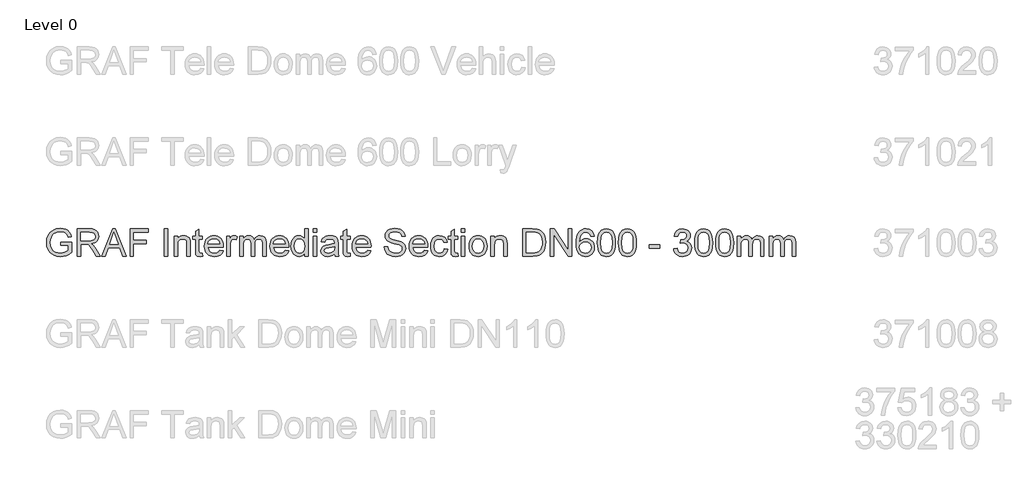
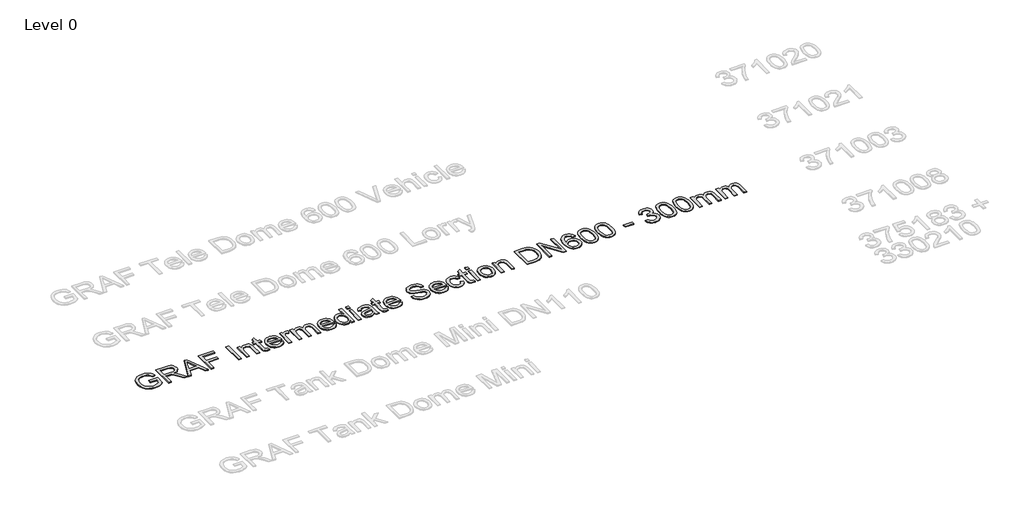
# One storey, part 6 of 20: 1 proxy.
"""IFC4 building model written with IfcOpenShell, lengths in millimetres."""

from ifc_helpers import new_model, si_unit, origin, origin_with_axes, place, context, project, spatial, polyline, outline, extrude, element, save

model = new_model("IFC4")

# Units and contexts
model_context = context("Model", 3, world=origin())
ifc_project = project(units=[si_unit("LENGTHUNIT", "METRE", prefix="MILLI")], contexts=[model_context])

# Site, building, storey
site = spatial("IfcSite", under=ifc_project)
building = spatial("IfcBuilding", under=site)
storey = spatial("IfcBuildingStorey", under=building, Name="Level 0", Elevation=0.0)

# Proxy
placement = place(None, origin())
element("IfcBuildingElementProxy", 1, Name="300mm Arial", ObjectType="300mm Arial", at=placement, inside=storey, context=model_context, shape_type="SweptSolid", body=[
    extrude(outline(polyline([(-15240.9940387, -13082.9794047), (-15240.9940387, -13045.3082884), (-15118.5629107, -13045.3082884), (-15118.5629107, -13157.9537553), (-15148.3153671, -13178.6471176), (-15179.0059225, -13193.4911561), (-15210.5610007, -13202.4306885), (-15242.9070251, -13205.4105327), (-15285.1674693, -13200.674052), (-15323.3628175, -13186.46461), (-15355.0926395, -13163.2788472), (-15377.9565055, -13131.6134045), (-15391.7796715, -13093.6295885), (-15396.3873935, -13051.4887059), (-15391.7980656, -13009.0443207), (-15378.0300819, -12969.5613856), (-15355.6536596, -12936.442809), (-15325.2390156, -12913.0914993), (-15288.1932987, -12899.2407422), (-15245.9236575, -12894.6238232), (-15214.8928112, -12897.3001647), (-15186.9889618, -12905.3291892), (-15163.4904994, -12918.1314827), (-15145.6758138, -12935.1276309), (-15132.4964413, -12957.1361712), (-15122.9039183, -12984.9756412), (-15157.6319786, -12994.7613023), (-15165.3850917, -12974.9048716), (-15174.8120678, -12959.9228773), (-15187.2832674, -12948.6289001), (-15204.169051, -12939.8365204), (-15224.3013932, -12934.1803347), (-15246.5122687, -12932.2949395), (-15272.5123287, -12934.3274875), (-15294.7415982, -12940.4251316), (-15313.1173039, -12949.8245166), (-15327.5566722, -12961.7622873), (-15346.9440533, -12990.7881767), (-15355.7732212, -13019.225455), (-15358.7162772, -13049.9436015), (-15355.175413, -13085.9684459), (-15344.5528204, -13115.6105377), (-15327.1703961, -13138.6583447), (-15303.3500369, -13154.9003348), (-15275.4737787, -13164.529646), (-15245.9236575, -13167.7394164), (-15219.831627, -13165.3205923), (-15194.3833899, -13158.0641199), (-15172.2828791, -13148.0669267), (-15156.234027, -13137.42594), (-15156.234027, -13082.9794047), (-15240.9940387, -13082.9794047)])), origin_with_axes(), (0.0, 0.0, 1.0), 10.0),
    extrude(outline(polyline([(-15057.3473467, -13200.7016432), (-15057.3473467, -12899.3327127), (-14927.4850024, -12899.3327127), (-14892.5821982, -12901.3652607), (-14867.1891434, -12907.4629048), (-14848.6294968, -12918.7200939), (-14834.2269167, -12936.2312768), (-14824.9838815, -12957.9455116), (-14821.9028698, -12981.811856), (-14827.0072325, -13011.4999331), (-14842.3203206, -13036.1112385), (-14853.9200997, -13046.1406214), (-14868.3019865, -13054.1558504), (-14905.4120827, -13064.1438466), (-14884.0013506, -13080.257078), (-14853.467145, -13119.0318402), (-14803.2144645, -13200.7016432), (-14846.9924219, -13200.7016432), (-14886.2086426, -13138.2352804), (-14914.5355562, -13096.8853441), (-14934.4379722, -13077.3508102), (-14952.3538253, -13070.1771113), (-14974.2060158, -13068.8527361), (-15019.6762304, -13068.8527361), (-15019.6762304, -13200.7016432), (-15057.3473467, -13200.7016432)]), holes=[polyline([(-15019.6762304, -13031.1816198), (-14935.3576771, -13031.1816198), (-14911.1418448, -13029.8480476), (-14892.3522719, -13025.8473309), (-14878.2072092, -13018.9127553), (-14867.9249074, -13008.7776063), (-14861.6617165, -12996.5179388), (-14859.5739861, -12983.2098076), (-14863.5563087, -12964.834102), (-14875.5032765, -12950.0268517), (-14896.058683, -12940.2595847), (-14925.8663217, -12937.003829), (-15019.6762304, -12937.003829), (-15019.6762304, -13031.1816198)])]), origin_with_axes(), (0.0, 0.0, 1.0), 10.0),
    extrude(outline(polyline([(-14791.0743586, -13200.7016432), (-14670.7769462, -12899.3327127), (-14638.6976362, -12899.3327127), (-14518.4002238, -13200.7016432), (-14558.2050557, -13200.7016432), (-14592.7123868, -13106.5238524), (-14716.835772, -13106.5238524), (-14751.2695268, -13200.7016432), (-14791.0743586, -13200.7016432)]), holes=[polyline([(-14703.003409, -13068.8527361), (-14606.4711735, -13068.8527361), (-14633.6208647, -12994.7613023), (-14654.7372912, -12937.003829), (-14673.499273, -12988.2865792), (-14703.003409, -13068.8527361)])]), origin_with_axes(), (0.0, 0.0, 1.0), 10.0),
    extrude(outline(polyline([(-14478.1539335, -13200.7016432), (-14478.1539335, -12899.3327127), (-14275.6716834, -12899.3327127), (-14275.6716834, -12937.003829), (-14440.4828172, -12937.003829), (-14440.4828172, -13026.4727303), (-14299.2161311, -13026.4727303), (-14299.2161311, -13064.1438466), (-14440.4828172, -13064.1438466), (-14440.4828172, -13200.7016432), (-14478.1539335, -13200.7016432)])), origin_with_axes(), (0.0, 0.0, 1.0), 10.0),
    extrude(outline(polyline([(-14101.4427705, -13200.7016432), (-14101.4427705, -12899.3327127), (-14063.7716542, -12899.3327127), (-14063.7716542, -13200.7016432), (-14101.4427705, -13200.7016432)])), origin_with_axes(), (0.0, 0.0, 1.0), 10.0),
    extrude(outline(polyline([(-13993.1383111, -13200.7016432), (-13993.1383111, -12979.3838349), (-13955.4671948, -12979.3838349), (-13955.4671948, -13010.2859225), (-13942.3797928, -12994.70612), (-13926.6620346, -12983.5776896), (-13908.3139201, -12976.9006314), (-13887.3354493, -12974.6749453), (-13868.7666056, -12976.4683701), (-13851.7612603, -12981.8486442), (-13837.5794094, -12990.1443832), (-13827.4810487, -13000.6842024), (-13816.1870714, -13028.3857166), (-13814.2005086, -13064.8060342), (-13814.2005086, -13200.7016432), (-13851.8716249, -13200.7016432), (-13851.8716249, -13069.8828057), (-13856.2126325, -13036.5526969), (-13862.2183061, -13026.6290801), (-13871.5533117, -13018.9311494), (-13883.5186736, -13013.9923336), (-13897.415416, -13012.3460616), (-13919.4791386, -13016.0432757), (-13938.2871056, -13027.1349178), (-13945.8033946, -13036.1894135), (-13951.1721725, -13048.5640441), (-13955.4671948, -13083.2737103), (-13955.4671948, -13200.7016432), (-13993.1383111, -13200.7016432)])), origin_with_axes(), (0.0, 0.0, 1.0), 10.0),
    extrude(outline(polyline([(-13682.3516016, -13169.2845208), (-13677.642712, -13201.8052892), (-13705.8224729, -13205.4105327), (-13723.9038729, -13203.8470342), (-13737.386748, -13199.1565388), (-13746.9148917, -13191.9276576), (-13753.1320974, -13182.7490018), (-13756.5534, -13166.9852583), (-13757.6938342, -13140.001114), (-13757.6938342, -13017.0549512), (-13785.9471714, -13017.0549512), (-13785.9471714, -12979.3838349), (-13757.6938342, -12979.3838349), (-13757.6938342, -12925.5994872), (-13720.0227179, -12903.4529911), (-13720.0227179, -12979.3838349), (-13682.3516016, -12979.3838349), (-13682.3516016, -13017.0549512), (-13720.0227179, -13017.0549512), (-13720.0227179, -13138.897468), (-13718.0361551, -13158.3216373), (-13711.5982202, -13165.2010306), (-13698.7591386, -13167.7394164), (-13682.3516016, -13169.2845208)])), origin_with_axes(), (0.0, 0.0, 1.0), 10.0),
    extrude(outline(polyline([(-13489.7285889, -13134.7771896), (-13452.7932366, -13139.4860792), (-13466.1013678, -13167.3163521), (-13487.3373559, -13188.1200789), (-13516.0229545, -13201.0879193), (-13551.6799169, -13205.4105327), (-13575.0542192, -13203.5458308), (-13595.8809386, -13197.9517253), (-13614.1600752, -13188.6282159), (-13629.8916291, -13175.5753029), (-13642.5421712, -13159.1562696), (-13651.5782727, -13139.7343995), (-13656.9999336, -13117.3096927), (-13658.8071539, -13091.882149), (-13656.9815395, -13065.5923819), (-13651.5046963, -13042.4204147), (-13642.3766243, -13022.3662475), (-13629.5973235, -13005.4298801), (-13613.9071564, -12991.9745962), (-13596.0464855, -12982.363679), (-13576.0153109, -12976.5971288), (-13553.8136325, -12974.6749453), (-13532.3270247, -12976.5925302), (-13512.8959575, -12982.3452849), (-13495.5204311, -12991.9332094), (-13480.2004452, -13005.3563037), (-13467.6947566, -13022.2558829), (-13458.762122, -13042.2732619), (-13453.4025411, -13065.4084409), (-13451.6160142, -13091.6614198), (-13451.8367434, -13101.8149629), (-13621.1360376, -13101.8149629), (-13614.6153292, -13130.0131178), (-13599.4677881, -13150.7432682), (-13577.6064005, -13163.4903794), (-13550.9441529, -13167.7394164), (-13530.8945842, -13165.7712477), (-13514.0088006, -13159.8667417), (-13500.2868022, -13149.6580163), (-13489.7285889, -13134.7771896)]), holes=[polyline([(-13621.1360376, -13064.1438466), (-13489.2871305, -13064.1438466), (-13494.3822961, -13044.2414306), (-13504.3702923, -13030.0043974), (-13526.3328474, -13016.7606456), (-13553.9607853, -13012.3460616), (-13579.35384, -13015.8685317), (-13600.3507048, -13026.4359421), (-13614.946423, -13042.9078584), (-13621.1360376, -13064.1438466)])]), origin_with_axes(), (0.0, 0.0, 1.0), 10.0),
    extrude(outline(polyline([(-13413.9448979, -13200.7016432), (-13413.9448979, -12979.3838349), (-13380.9826711, -12979.3838349), (-13380.9826711, -13012.1253324), (-13368.8057771, -12993.1426215), (-13357.5853762, -12981.9590088), (-13346.3281872, -12976.4959612), (-13334.0409285, -12974.6749453), (-13315.2789468, -12977.5812131), (-13296.2226594, -12986.3000164), (-13308.8042237, -13020.0715835), (-13322.0479755, -13014.2774421), (-13335.2917273, -13012.3460616), (-13346.5397193, -13014.2038657), (-13356.5920948, -13019.7772779), (-13364.7130899, -13028.643234), (-13370.1669405, -13040.3786697), (-13374.7470713, -13061.4215198), (-13376.2737816, -13084.3773563), (-13376.2737816, -13200.7016432), (-13413.9448979, -13200.7016432)])), origin_with_axes(), (0.0, 0.0, 1.0), 10.0),
    extrude(outline(polyline([(-13272.6782117, -13200.7016432), (-13272.6782117, -12979.3838349), (-13235.0070954, -12979.3838349), (-13235.0070954, -13015.8041524), (-13223.67633, -12999.0747187), (-13209.108203, -12985.9689226), (-13191.7993551, -12977.4984396), (-13172.2464271, -12974.6749453), (-13151.2955474, -12977.5536219), (-13134.5017344, -12986.1896518), (-13121.9569583, -13000.0128178), (-13113.7531898, -13018.4529028), (-13100.0219944, -12999.3000464), (-13084.3594184, -12985.6194347), (-13066.765462, -12977.4110677), (-13047.2401251, -12974.6749453), (-13018.9224085, -12979.227485), (-12997.9807259, -12992.8851041), (-12985.0404768, -13016.0156845), (-12980.7270604, -13048.9871084), (-12980.7270604, -13200.7016432), (-13018.3981767, -13200.7016432), (-13018.3981767, -13065.1739161), (-13021.8930556, -13033.7200056), (-13026.8042803, -13025.0471875), (-13034.5481963, -13018.2321736), (-13044.5086013, -13013.8175896), (-13056.069293, -13012.3460616), (-13076.4775467, -13016.1168521), (-13093.1150099, -13027.4292234), (-13104.1790609, -13047.0557279), (-13107.8670779, -13075.7689176), (-13107.8670779, -13200.7016432), (-13145.5381942, -13200.7016432), (-13145.5381942, -13060.9800614), (-13147.717895, -13039.6796939), (-13154.2569975, -13024.4861675), (-13165.7625069, -13015.3810881), (-13182.8414285, -13012.3460616), (-13197.3543732, -13014.3694126), (-13210.7268838, -13020.4394655), (-13221.7633436, -13030.4090676), (-13229.2681363, -13044.131066), (-13233.5723557, -13063.1689593), (-13235.0070954, -13089.0862458), (-13235.0070954, -13200.7016432), (-13272.6782117, -13200.7016432)])), origin_with_axes(), (0.0, 0.0, 1.0), 10.0),
    extrude(outline(polyline([(-12769.2684895, -13134.7771896), (-12732.3331372, -13139.4860792), (-12745.6412684, -13167.3163521), (-12766.8772566, -13188.1200789), (-12795.5628551, -13201.0879193), (-12831.2198175, -13205.4105327), (-12854.5941198, -13203.5458308), (-12875.4208393, -13197.9517253), (-12893.6999759, -13188.6282159), (-12909.4315297, -13175.5753029), (-12922.0820718, -13159.1562696), (-12931.1181733, -13139.7343995), (-12936.5398342, -13117.3096927), (-12938.3470545, -13091.882149), (-12936.5214401, -13065.5923819), (-12931.0445969, -13042.4204147), (-12921.9165249, -13022.3662475), (-12909.1372241, -13005.4298801), (-12893.447057, -12991.9745962), (-12875.5863861, -12982.363679), (-12855.5552115, -12976.5971288), (-12833.3535331, -12974.6749453), (-12811.8669253, -12976.5925302), (-12792.4358582, -12982.3452849), (-12775.0603317, -12991.9332094), (-12759.7403459, -13005.3563037), (-12747.2346573, -13022.2558829), (-12738.3020226, -13042.2732619), (-12732.9424418, -13065.4084409), (-12731.1559148, -13091.6614198), (-12731.376644, -13101.8149629), (-12900.6759382, -13101.8149629), (-12894.1552299, -13130.0131178), (-12879.0076887, -13150.7432682), (-12857.1463011, -13163.4903794), (-12830.4840535, -13167.7394164), (-12810.4344848, -13165.7712477), (-12793.5487012, -13159.8667417), (-12779.8267028, -13149.6580163), (-12769.2684895, -13134.7771896)]), holes=[polyline([(-12900.6759382, -13064.1438466), (-12768.8270311, -13064.1438466), (-12773.9221968, -13044.2414306), (-12783.910193, -13030.0043974), (-12805.8727481, -13016.7606456), (-12833.5006859, -13012.3460616), (-12858.8937406, -13015.8685317), (-12879.8906055, -13026.4359421), (-12894.4863237, -13042.9078584), (-12900.6759382, -13064.1438466)])]), origin_with_axes(), (0.0, 0.0, 1.0), 10.0),
    extrude(outline(polyline([(-12556.9270019, -13200.7016432), (-12556.9270019, -13165.1642424), (-12568.1979866, -13182.7719944), (-12581.8510071, -13195.3489601), (-12597.8860636, -13202.8951396), (-12616.3031559, -13205.4105327), (-12640.656944, -13201.768501), (-12662.9505929, -13190.8424057), (-12681.8229393, -13173.3956021), (-12695.9128197, -13150.1914452), (-12704.6868053, -13122.1680343), (-12707.6114672, -13090.2634682), (-12704.9167315, -13058.7543753), (-12696.8325247, -13030.298703), (-12683.3680437, -13006.515132), (-12664.5324855, -12989.0223431), (-12641.751393, -12978.2617948), (-12616.4503087, -12974.6749453), (-12598.0194208, -12977.2409223), (-12581.7222484, -12984.938853), (-12567.9082795, -12996.738668), (-12556.9270019, -13011.6102977), (-12556.9270019, -12899.3327127), (-12519.2558856, -12899.3327127), (-12519.2558856, -13200.7016432), (-12556.9270019, -13200.7016432)]), holes=[polyline([(-12669.9403508, -13090.1163154), (-12665.6913138, -13124.1913852), (-12652.9442027, -13148.4256117), (-12634.4213442, -13162.9109652), (-12612.8450652, -13167.7394164), (-12591.2779832, -13163.1316944), (-12573.2241743, -13149.3085284), (-12561.001295, -13126.0124011), (-12556.9270019, -13092.985795), (-12561.0748714, -13056.8781772), (-12573.5184799, -13031.8438074), (-12592.0321413, -13017.2204981), (-12614.3901696, -13012.3460616), (-12636.1871778, -13017.02736), (-12654.0478487, -13031.0712552), (-12665.9672253, -13055.195117), (-12669.9403508, -13090.1163154)])]), origin_with_axes(), (0.0, 0.0, 1.0), 10.0),
    extrude(outline(polyline([(-12462.7492112, -12937.003829), (-12462.7492112, -12899.3327127), (-12425.0780949, -12899.3327127), (-12425.0780949, -12937.003829), (-12462.7492112, -12937.003829)])), origin_with_axes(), (0.0, 0.0, 1.0), 10.0),
    extrude(outline(polyline([(-12462.7492112, -13200.7016432), (-12462.7492112, -12979.3838349), (-12425.0780949, -12979.3838349), (-12425.0780949, -13200.7016432), (-12462.7492112, -13200.7016432)])), origin_with_axes(), (0.0, 0.0, 1.0), 10.0),
    extrude(outline(polyline([(-12227.3047342, -13172.4483059), (-12245.3033609, -13187.8809556), (-12263.8354164, -13197.9793164), (-12283.3239651, -13203.5527286), (-12304.1920712, -13205.4105327), (-12335.673573, -13200.9407665), (-12358.8961239, -13187.5314677), (-12373.2159306, -13167.1691993), (-12377.9891995, -13141.8405239), (-12376.1865777, -13126.2239332), (-12370.7787124, -13112.0420823), (-12362.4369881, -13099.9019765), (-12351.8327896, -13090.410621), (-12325.4556506, -13078.049786), (-12292.8613058, -13072.3844033), (-12254.3440609, -13066.4247149), (-12227.5254634, -13059.434957), (-12227.3047342, -13051.0472475), (-12229.8983023, -13034.2350404), (-12237.6790065, -13023.2353687), (-12255.0798249, -13015.0683884), (-12279.3232484, -13012.3460616), (-12301.7640501, -13014.1578805), (-12317.4358231, -13019.5933369), (-12328.122795, -13029.6457125), (-12335.6091936, -13045.3082884), (-12373.2803099, -13040.5993989), (-12366.7412075, -13019.9980071), (-12356.9831375, -13003.8111994), (-12343.0955922, -12991.4319702), (-12324.1680636, -12982.2533144), (-12301.019089, -12976.5695376), (-12274.467206, -12974.6749453), (-12249.0005749, -12976.3488084), (-12228.8130504, -12981.3703976), (-12213.5919329, -12988.9211756), (-12203.0245226, -12998.1826048), (-12196.0163706, -13009.6329319), (-12191.4730279, -13023.7504035), (-12189.6336179, -13056.7126303), (-12189.6336179, -13103.5807964), (-12187.7206316, -13169.0270034), (-12180.2158389, -13200.7016432), (-12217.8869552, -13200.7016432), (-12227.3047342, -13172.4483059)]), holes=[polyline([(-12227.3047342, -13097.1060733), (-12288.0788399, -13108.657568), (-12320.4892436, -13114.7644091), (-12335.1677352, -13124.697223), (-12340.3180832, -13139.1917736), (-12337.512983, -13150.3937803), (-12329.0976823, -13159.5724361), (-12315.2561222, -13165.6976713), (-12296.1722437, -13167.7394164), (-12275.938734, -13165.4861392), (-12258.059669, -13158.7263075), (-12243.5651184, -13148.7659025), (-12233.4851518, -13136.9109052), (-12229.0153855, -13124.697223), (-12227.5254634, -13107.7746512), (-12227.3047342, -13097.1060733)])]), origin_with_axes(), (0.0, 0.0, 1.0), 10.0),
    extrude(outline(polyline([(-12057.7847109, -13169.2845208), (-12053.0758213, -13201.8052892), (-12081.2555822, -13205.4105327), (-12099.3369822, -13203.8470342), (-12112.8198573, -13199.1565388), (-12122.348001, -13191.9276576), (-12128.5652067, -13182.7490018), (-12131.9865093, -13166.9852583), (-12133.1269435, -13140.001114), (-12133.1269435, -13017.0549512), (-12161.3802807, -13017.0549512), (-12161.3802807, -12979.3838349), (-12133.1269435, -12979.3838349), (-12133.1269435, -12925.5994872), (-12095.4558272, -12903.4529911), (-12095.4558272, -12979.3838349), (-12057.7847109, -12979.3838349), (-12057.7847109, -13017.0549512), (-12095.4558272, -13017.0549512), (-12095.4558272, -13138.897468), (-12093.4692644, -13158.3216373), (-12087.0313295, -13165.2010306), (-12074.1922479, -13167.7394164), (-12057.7847109, -13169.2845208)])), origin_with_axes(), (0.0, 0.0, 1.0), 10.0),
    extrude(outline(polyline([(-11865.1616982, -13134.7771896), (-11828.2263459, -13139.4860792), (-11841.5344771, -13167.3163521), (-11862.7704652, -13188.1200789), (-11891.4560638, -13201.0879193), (-11927.1130262, -13205.4105327), (-11950.4873285, -13203.5458308), (-11971.3140479, -13197.9517253), (-11989.5931845, -13188.6282159), (-12005.3247384, -13175.5753029), (-12017.9752805, -13159.1562696), (-12027.011382, -13139.7343995), (-12032.4330429, -13117.3096927), (-12034.2402632, -13091.882149), (-12032.4146488, -13065.5923819), (-12026.9378056, -13042.4204147), (-12017.8097336, -13022.3662475), (-12005.0304328, -13005.4298801), (-11989.3402657, -12991.9745962), (-11971.4795948, -12982.363679), (-11951.4484202, -12976.5971288), (-11929.2467418, -12974.6749453), (-11907.760134, -12976.5925302), (-11888.3290668, -12982.3452849), (-11870.9535404, -12991.9332094), (-11855.6335545, -13005.3563037), (-11843.1278659, -13022.2558829), (-11834.1952313, -13042.2732619), (-11828.8356504, -13065.4084409), (-11827.0491235, -13091.6614198), (-11827.2698527, -13101.8149629), (-11996.5691469, -13101.8149629), (-11990.0484385, -13130.0131178), (-11974.9008974, -13150.7432682), (-11953.0395098, -13163.4903794), (-11926.3772622, -13167.7394164), (-11906.3276935, -13165.7712477), (-11889.4419099, -13159.8667417), (-11875.7199115, -13149.6580163), (-11865.1616982, -13134.7771896)]), holes=[polyline([(-11996.5691469, -13064.1438466), (-11864.7202398, -13064.1438466), (-11869.8154054, -13044.2414306), (-11879.8034016, -13030.0043974), (-11901.7659567, -13016.7606456), (-11929.3938946, -13012.3460616), (-11954.7869493, -13015.8685317), (-11975.7838141, -13026.4359421), (-11990.3795323, -13042.9078584), (-11996.5691469, -13064.1438466)])]), origin_with_axes(), (0.0, 0.0, 1.0), 10.0),
    extrude(outline(polyline([(-11681.0735478, -13097.1060733), (-11643.4024315, -13097.1060733), (-11639.0798181, -13118.0109677), (-11631.2623257, -13134.8139778), (-11619.0670375, -13148.1497002), (-11601.6110369, -13158.6527311), (-11580.2738811, -13165.4677451), (-11556.4351278, -13167.7394164), (-11535.44746, -13166.0195681), (-11517.0717544, -13160.8600231), (-11502.1817306, -13152.6930428), (-11491.6511085, -13141.9508885), (-11485.3879175, -13129.6176447), (-11483.3001872, -13116.6773955), (-11484.8636857, -13104.0682401), (-11489.5541811, -13093.169736), (-11499.0823248, -13083.8715186), (-11515.158768, -13076.0632232), (-11570.0099735, -13061.6790372), (-11606.0164237, -13052.1600906), (-11629.0550337, -13043.1009964), (-11647.8078184, -13030.4274617), (-11661.0975555, -13015.0683884), (-11669.0162154, -12997.3548703), (-11671.6557687, -12977.6180013), (-11668.390816, -12955.5542786), (-11658.5959579, -12934.9804781), (-11642.5287118, -12917.5428715), (-11620.446595, -12904.8877309), (-11593.9406973, -12897.1898001), (-11564.6021081, -12894.6238232), (-11532.8171038, -12897.3093618), (-11505.0052249, -12905.3659774), (-11482.159753, -12918.6281234), (-11465.2739694, -12936.9302526), (-11454.5869975, -12959.131931), (-11450.3379604, -12984.0927244), (-11488.0090767, -12984.0927244), (-11494.9252582, -12961.6151345), (-11509.3462325, -12945.3915385), (-11531.8790047, -12935.5690892), (-11563.1305802, -12932.2949395), (-11595.1179196, -12935.532301), (-11617.0620806, -12945.2443857), (-11629.7540095, -12959.5366012), (-11633.9846524, -12976.5143553), (-11630.9864142, -12990.9905118), (-11621.9916994, -13002.633977), (-11600.7281201, -13013.0450374), (-11560.4818298, -13023.6768271), (-11518.9479525, -13033.7751879), (-11493.8216123, -13042.5859616), (-11472.3465008, -13056.2527778), (-11457.3645065, -13073.1201672), (-11448.5629298, -13093.0041891), (-11445.6290709, -13115.7209023), (-11449.0043882, -13138.9434532), (-11459.1303401, -13160.7864467), (-11475.5930594, -13179.5852166), (-11497.9786788, -13193.6750971), (-11524.8984438, -13202.4766738), (-11554.9635999, -13205.4105327), (-11591.871361, -13202.2467476), (-11622.2492168, -13192.7553921), (-11646.446655, -13176.8996781), (-11664.8131636, -13154.6428174), (-11676.6037816, -13127.5299143), (-11681.0735478, -13097.1060733)])), origin_with_axes(), (0.0, 0.0, 1.0), 10.0),
    extrude(outline(polyline([(-11238.8793896, -13134.7771896), (-11201.9440373, -13139.4860792), (-11215.2521685, -13167.3163521), (-11236.4881566, -13188.1200789), (-11265.1737552, -13201.0879193), (-11300.8307176, -13205.4105327), (-11324.2050199, -13203.5458308), (-11345.0317393, -13197.9517253), (-11363.310876, -13188.6282159), (-11379.0424298, -13175.5753029), (-11391.6929719, -13159.1562696), (-11400.7290734, -13139.7343995), (-11406.1507343, -13117.3096927), (-11407.9579546, -13091.882149), (-11406.1323402, -13065.5923819), (-11400.655497, -13042.4204147), (-11391.527425, -13022.3662475), (-11378.7481242, -13005.4298801), (-11363.0579571, -12991.9745962), (-11345.1972862, -12982.363679), (-11325.1661116, -12976.5971288), (-11302.9644332, -12974.6749453), (-11281.4778254, -12976.5925302), (-11262.0467583, -12982.3452849), (-11244.6712318, -12991.9332094), (-11229.3512459, -13005.3563037), (-11216.8455574, -13022.2558829), (-11207.9129227, -13042.2732619), (-11202.5533418, -13065.4084409), (-11200.7668149, -13091.6614198), (-11200.9875441, -13101.8149629), (-11370.2868383, -13101.8149629), (-11363.7661299, -13130.0131178), (-11348.6185888, -13150.7432682), (-11326.7572012, -13163.4903794), (-11300.0949536, -13167.7394164), (-11280.0453849, -13165.7712477), (-11263.1596013, -13159.8667417), (-11249.4376029, -13149.6580163), (-11238.8793896, -13134.7771896)]), holes=[polyline([(-11370.2868383, -13064.1438466), (-11238.4379312, -13064.1438466), (-11243.5330968, -13044.2414306), (-11253.521093, -13030.0043974), (-11275.4836481, -13016.7606456), (-11303.111586, -13012.3460616), (-11328.5046407, -13015.8685317), (-11349.5015056, -13026.4359421), (-11364.0972237, -13042.9078584), (-11370.2868383, -13064.1438466)])]), origin_with_axes(), (0.0, 0.0, 1.0), 10.0),
    extrude(outline(polyline([(-11021.8290125, -13120.650521), (-10984.1578961, -13125.3594106), (-10994.6609271, -13158.8642633), (-11014.3977961, -13184.1837416), (-11041.5106992, -13200.1038349), (-11074.1418322, -13205.4105327), (-11095.269755, -13203.5596264), (-11114.2133785, -13198.0069076), (-11130.9727026, -13188.7523761), (-11145.5477274, -13175.7960321), (-11157.3452432, -13159.3815973), (-11165.7720401, -13139.7527936), (-11170.8281183, -13116.909621), (-11172.5134777, -13090.8520794), (-11169.6348011, -13057.3288326), (-11160.9987712, -13028.275352), (-11146.4674324, -13004.8136778), (-11125.9028289, -12988.06585), (-11101.3007205, -12978.0226715), (-11074.656867, -12974.6749453), (-11042.8258773, -12979.2734703), (-11017.3776403, -12993.0690451), (-10999.1214963, -13015.3259058), (-10988.8667857, -13045.3082884), (-11026.537902, -13050.0171779), (-11033.3713101, -13033.5820498), (-11044.0122968, -13021.8006289), (-11057.8722509, -13014.7097035), (-11074.3625614, -13012.3460616), (-11098.7071524, -13016.9997689), (-11118.0301542, -13030.9608906), (-11130.6393096, -13054.9835849), (-11134.8423614, -13089.8220098), (-11130.7312801, -13125.1294843), (-11118.3980362, -13149.234952), (-11099.4245223, -13163.1133003), (-11075.392631, -13167.7394164), (-11055.8856882, -13164.8515427), (-11039.8920184, -13156.1879218), (-11028.2577503, -13141.5278242), (-11021.8290125, -13120.650521)])), origin_with_axes(), (0.0, 0.0, 1.0), 10.0),
    extrude(outline(polyline([(-10871.1445472, -13169.2845208), (-10866.4356577, -13201.8052892), (-10894.6154185, -13205.4105327), (-10912.6968186, -13203.8470342), (-10926.1796937, -13199.1565388), (-10935.7078374, -13191.9276576), (-10941.9250431, -13182.7490018), (-10945.3463457, -13166.9852583), (-10946.4867798, -13140.001114), (-10946.4867798, -13017.0549512), (-10974.7401171, -13017.0549512), (-10974.7401171, -12979.3838349), (-10946.4867798, -12979.3838349), (-10946.4867798, -12925.5994872), (-10908.8156635, -12903.4529911), (-10908.8156635, -12979.3838349), (-10871.1445472, -12979.3838349), (-10871.1445472, -13017.0549512), (-10908.8156635, -13017.0549512), (-10908.8156635, -13138.897468), (-10906.8291008, -13158.3216373), (-10900.3911658, -13165.2010306), (-10887.5520842, -13167.7394164), (-10871.1445472, -13169.2845208)])), origin_with_axes(), (0.0, 0.0, 1.0), 10.0),
    extrude(outline(polyline([(-10833.4734309, -12937.003829), (-10833.4734309, -12899.3327127), (-10795.8023146, -12899.3327127), (-10795.8023146, -12937.003829), (-10833.4734309, -12937.003829)])), origin_with_axes(), (0.0, 0.0, 1.0), 10.0),
    extrude(outline(polyline([(-10833.4734309, -13200.7016432), (-10833.4734309, -12979.3838349), (-10795.8023146, -12979.3838349), (-10795.8023146, -13200.7016432), (-10833.4734309, -13200.7016432)])), origin_with_axes(), (0.0, 0.0, 1.0), 10.0),
    extrude(outline(polyline([(-10748.7134192, -13090.042739), (-10746.6762727, -13061.3801331), (-10740.564833, -13036.6814556), (-10730.3791003, -13015.9467067), (-10716.1190745, -12999.1758862), (-10701.7624796, -12988.4567246), (-10685.9159627, -12980.8001806), (-10668.5795236, -12976.2062541), (-10649.7531625, -12974.6749453), (-10628.9701291, -12976.5396472), (-10610.1782569, -12982.1337528), (-10593.377546, -12991.4572621), (-10578.5679965, -13004.5101751), (-10566.4807737, -13020.8510335), (-10557.8470431, -13040.0383788), (-10552.6668047, -13062.0722111), (-10550.9400586, -13086.9525303), (-10553.9934792, -13125.0099227), (-10563.1537409, -13153.9806298), (-10578.1541292, -13175.6764705), (-10598.7279298, -13191.9092635), (-10623.1644913, -13202.0352154), (-10649.7531625, -13205.4105327), (-10670.8396986, -13203.5527286), (-10689.8063148, -13197.9793164), (-10706.6530109, -13188.690296), (-10721.379787, -13175.6856675), (-10733.3382511, -13159.18616), (-10741.8800112, -13139.4125028), (-10747.0050672, -13116.3646958), (-10748.7134192, -13090.042739)]), holes=[polyline([(-10711.0423029, -13089.9691626), (-10706.6829013, -13124.0626265), (-10693.6046964, -13148.3520353), (-10673.9230096, -13162.8925711), (-10649.7531625, -13167.7394164), (-10625.69368, -13162.86498), (-10606.0487815, -13148.2416707), (-10592.9705766, -13123.6303652), (-10588.6111749, -13088.7919402), (-10592.9981677, -13055.6917577), (-10606.1591461, -13031.7334428), (-10625.8316358, -13017.1929069), (-10649.7531625, -13012.3460616), (-10673.9230096, -13017.1745128), (-10693.6046964, -13031.6598664), (-10706.6829013, -13055.8940928), (-10711.0423029, -13089.9691626)])]), origin_with_axes(), (0.0, 0.0, 1.0), 10.0),
    extrude(outline(polyline([(-10508.5600528, -13200.7016432), (-10508.5600528, -12979.3838349), (-10470.8889365, -12979.3838349), (-10470.8889365, -13010.2859225), (-10457.8015345, -12994.70612), (-10442.0837763, -12983.5776896), (-10423.7356617, -12976.9006314), (-10402.757191, -12974.6749453), (-10384.1883473, -12976.4683701), (-10367.183002, -12981.8486442), (-10353.0011511, -12990.1443832), (-10342.9027904, -13000.6842024), (-10331.6088131, -13028.3857166), (-10329.6222503, -13064.8060342), (-10329.6222503, -13200.7016432), (-10367.2933666, -13200.7016432), (-10367.2933666, -13069.8828057), (-10371.6343742, -13036.5526969), (-10377.6400477, -13026.6290801), (-10386.9750534, -13018.9311494), (-10398.9404153, -13013.9923336), (-10412.8371576, -13012.3460616), (-10434.9008803, -13016.0432757), (-10453.7088473, -13027.1349178), (-10461.2251363, -13036.1894135), (-10466.5939142, -13048.5640441), (-10470.8889365, -13083.2737103), (-10470.8889365, -13200.7016432), (-10508.5600528, -13200.7016432)])), origin_with_axes(), (0.0, 0.0, 1.0), 10.0),
    extrude(outline(polyline([(-10155.3933374, -13200.7016432), (-10155.3933374, -12899.3327127), (-10051.4298856, -12899.3327127), (-9997.6455379, -12903.6737203), (-9973.6228436, -12912.0430357), (-9953.3525457, -12925.2316052), (-9932.5120306, -12948.1874417), (-9917.6679921, -12976.7350845), (-9908.7836419, -13010.3227107), (-9905.8221919, -13048.3984972), (-9907.8271488, -13080.7445216), (-9913.8420194, -13109.209391), (-9923.0022811, -13133.4436174), (-9934.4434111, -13153.097713), (-9947.6135865, -13168.6131361), (-9961.9609843, -13180.4313452), (-9978.4329007, -13189.1961338), (-9997.9766317, -13195.5512952), (-10046.4266904, -13200.7016432), (-10155.3933374, -13200.7016432)]), holes=[polyline([(-10117.7222211, -13163.0305269), (-10051.0620036, -13163.0305269), (-10023.489248, -13161.6693635), (-10002.5751566, -13157.5858733), (-9986.793019, -13151.0191797), (-9974.616125, -13142.2084059), (-9961.528723, -13125.9020365), (-9951.6970767, -13104.794807), (-9945.5442503, -13078.794747), (-9943.4933082, -13047.809886), (-9947.512419, -13006.7542553), (-9959.5697514, -12976.4407789), (-9977.384437, -12955.618658), (-9998.6756075, -12943.0370938), (-10020.343857, -12938.5121452), (-10052.0920732, -12937.003829), (-10117.7222211, -12937.003829), (-10117.7222211, -13163.0305269)])]), origin_with_axes(), (0.0, 0.0, 1.0), 10.0),
    extrude(outline(polyline([(-9854.024407, -13200.7016432), (-9854.024407, -12899.3327127), (-9813.7045403, -12899.3327127), (-9656.2510464, -13138.0881276), (-9656.2510464, -12899.3327127), (-9618.57993, -12899.3327127), (-9618.57993, -13200.7016432), (-9658.8997967, -13200.7016432), (-9816.3532907, -12961.8726519), (-9816.3532907, -13200.7016432), (-9854.024407, -13200.7016432)])), origin_with_axes(), (0.0, 0.0, 1.0), 10.0),
    extrude(outline(polyline([(-9373.7176741, -12979.3838349), (-9411.3887904, -12984.0927244), (-9417.4588433, -12965.4227132), (-9425.6626118, -12952.675602), (-9442.7507305, -12940.9217723), (-9463.4073045, -12937.003829), (-9480.9184875, -12939.2846974), (-9497.3996008, -12946.1273025), (-9511.5538606, -12960.5390797), (-9523.1145523, -12980.3771163), (-9530.9228476, -13008.4373154), (-9533.8199184, -13047.5155804), (-9518.7091654, -13029.8848358), (-9500.6001742, -13017.4596214), (-9480.5046202, -13010.0927844), (-9459.4341789, -13007.6371721), (-9441.3343848, -13009.3156337), (-9424.6325422, -13014.3510185), (-9409.3286512, -13022.7433265), (-9395.4227118, -13034.4925578), (-9383.8666186, -13048.8997364), (-9375.6122663, -13065.2658866), (-9370.659655, -13083.5910085), (-9369.0087845, -13103.875102), (-9372.1173874, -13130.8500493), (-9381.443196, -13155.856828), (-9396.2136581, -13177.065225), (-9415.6562215, -13192.6450275), (-9438.8879695, -13202.2191564), (-9465.0259853, -13205.4105327), (-9487.4828818, -13203.2952112), (-9507.7646761, -13196.9492468), (-9525.871368, -13186.3726395), (-9541.8029577, -13171.5653892), (-9554.7914913, -13151.9020965), (-9564.0690154, -13126.7573621), (-9569.6355299, -13096.131186), (-9571.4910347, -13060.0235682), (-9569.4308955, -13019.5427532), (-9563.250478, -12984.9940353), (-9552.9497821, -12956.3774146), (-9538.5288079, -12933.6928911), (-9522.8984216, -12918.660313), (-9504.7756348, -12907.9227573), (-9484.1604475, -12901.4802239), (-9461.0528597, -12899.3327127), (-9427.9986624, -12904.6486076), (-9401.5295529, -12920.596292), (-9382.9883003, -12945.9249674), (-9373.7176741, -12979.3838349)]), holes=[polyline([(-9533.8199184, -13103.2864908), (-9531.6402175, -13119.9791364), (-9525.1011151, -13135.9176238), (-9514.947572, -13149.6212281), (-9501.9245494, -13159.6092243), (-9486.2067911, -13165.7068684), (-9467.9690412, -13167.7394164), (-9443.1094154, -13163.5271676), (-9423.5656844, -13150.890421), (-9410.9013467, -13131.0247933), (-9406.6799008, -13105.1259008), (-9410.8461644, -13080.266275), (-9423.3449552, -13061.3111552), (-9443.21978, -13049.3090051), (-9469.5141456, -13045.3082884), (-9494.3369832, -13049.3090051), (-9515.0947248, -13061.3111552), (-9529.13862, -13079.8064225), (-9533.8199184, -13103.2864908)])]), origin_with_axes(), (0.0, 0.0, 1.0), 10.0),
    extrude(outline(polyline([(-9336.0465578, -13052.4451991), (-9333.2782457, -13004.2066725), (-9324.9733097, -12965.7354129), (-9311.2145231, -12936.442809), (-9292.0846593, -12915.7402497), (-9267.4457627, -12903.434597), (-9237.1598775, -12899.3327127), (-9213.9465236, -12901.7607339), (-9193.1611908, -12909.0447974), (-9175.7787666, -12920.8997947), (-9162.774138, -12937.0406172), (-9152.9516888, -12957.3293093), (-9145.1158023, -12981.627915), (-9139.9838484, -13012.4840174), (-9138.2731971, -13052.4451991), (-9141.013918, -13100.4078142), (-9149.2360806, -13138.7871034), (-9162.9120938, -13168.1072984), (-9182.0143664, -13188.8926311), (-9206.7084453, -13201.2810573), (-9237.1598775, -13205.4105327), (-9257.908422, -13203.617108), (-9276.3025217, -13198.2368338), (-9292.3421767, -13189.2697102), (-9306.0273869, -13176.7157371), (-9319.1607742, -13154.0220165), (-9328.5417651, -13125.7456867), (-9334.1703596, -13091.8867475), (-9336.0465578, -13052.4451991)]), holes=[polyline([(-9298.3754414, -13052.3716227), (-9293.9608575, -13111.6282151), (-9288.4426276, -13131.8962138), (-9280.7171057, -13145.9240141), (-9260.9986307, -13162.2855658), (-9237.1598775, -13167.7394164), (-9213.3211242, -13162.2671717), (-9193.6026492, -13145.8504377), (-9185.8771273, -13131.7996447), (-9180.3588974, -13111.5362446), (-9175.9443135, -13052.3716227), (-9180.2117446, -12994.4486026), (-9185.5460335, -12974.2472825), (-9193.014038, -12959.8860891), (-9212.6957248, -12942.7243941), (-9237.6013358, -12937.003829), (-9261.1825717, -12942.0438124), (-9280.1284945, -12957.1637624), (-9288.1115338, -12972.7987472), (-9293.8137047, -12993.8783855), (-9298.3754414, -13052.3716227)])]), origin_with_axes(), (0.0, 0.0, 1.0), 10.0),
    extrude(outline(polyline([(-9105.3109704, -13052.4451991), (-9102.5426584, -13004.2066725), (-9094.2377223, -12965.7354129), (-9080.4789357, -12936.442809), (-9061.349072, -12915.7402497), (-9036.7101753, -12903.434597), (-9006.4242901, -12899.3327127), (-8983.2109362, -12901.7607339), (-8962.4256035, -12909.0447974), (-8945.0431792, -12920.8997947), (-8932.0385507, -12937.0406172), (-8922.2161014, -12957.3293093), (-8914.3802149, -12981.627915), (-8909.248261, -13012.4840174), (-8907.5376098, -13052.4451991), (-8910.2783306, -13100.4078142), (-8918.5004932, -13138.7871034), (-8932.1765064, -13168.1072984), (-8951.278779, -13188.8926311), (-8975.9728579, -13201.2810573), (-9006.4242901, -13205.4105327), (-9027.1728346, -13203.617108), (-9045.5669344, -13198.2368338), (-9061.6065894, -13189.2697102), (-9075.2917996, -13176.7157371), (-9088.4251868, -13154.0220165), (-9097.8061777, -13125.7456867), (-9103.4347722, -13091.8867475), (-9105.3109704, -13052.4451991)]), holes=[polyline([(-9067.6398541, -13052.3716227), (-9063.2252701, -13111.6282151), (-9057.7070402, -13131.8962138), (-9049.9815183, -13145.9240141), (-9030.2630434, -13162.2855658), (-9006.4242901, -13167.7394164), (-8982.5855368, -13162.2671717), (-8962.8670618, -13145.8504377), (-8955.1415399, -13131.7996447), (-8949.62331, -13111.5362446), (-8945.2087261, -13052.3716227), (-8949.4761572, -12994.4486026), (-8954.8104462, -12974.2472825), (-8962.2784507, -12959.8860891), (-8981.9601374, -12942.7243941), (-9006.8657485, -12937.003829), (-9030.4469844, -12942.0438124), (-9049.3929071, -12957.1637624), (-9057.3759464, -12972.7987472), (-9063.0781173, -12993.8783855), (-9067.6398541, -13052.3716227)])]), origin_with_axes(), (0.0, 0.0, 1.0), 10.0),
    extrude(outline(polyline([(-8766.2709236, -13111.2327419), (-8766.2709236, -13073.5616256), (-8648.5486852, -13073.5616256), (-8648.5486852, -13111.2327419), (-8766.2709236, -13111.2327419)])), origin_with_axes(), (0.0, 0.0, 1.0), 10.0),
    extrude(outline(polyline([(-8497.8642199, -13120.650521), (-8460.1931036, -13115.9416315), (-8451.7594089, -13139.6148379), (-8439.4077709, -13155.5993106), (-8422.5311844, -13164.7043899), (-8400.522644, -13167.7394164), (-8374.697328, -13163.5639558), (-8354.7581238, -13151.0375738), (-8342.0110127, -13132.3491685), (-8337.7619756, -13109.6876376), (-8341.9742245, -13088.1757379), (-8354.610971, -13070.7289343), (-8373.7408348, -13059.1682426), (-8397.4324353, -13055.3146787), (-8423.8463625, -13059.434957), (-8419.6525078, -13021.7638407), (-8413.619243, -13022.2052991), (-8391.0496826, -13019.5013664), (-8370.8713552, -13011.3895685), (-8356.634322, -12997.66757), (-8351.8886443, -12978.1330361), (-8355.3283409, -12961.8634549), (-8365.6474309, -12948.6656883), (-8381.3927803, -12939.9192938), (-8401.1112552, -12937.003829), (-8420.8665184, -12939.946885), (-8437.0165379, -12948.7760529), (-8448.8071559, -12963.4913327), (-8455.4842141, -12984.0927244), (-8493.1553304, -12979.3838349), (-8482.0636883, -12945.5570854), (-8462.3268192, -12920.3019864), (-8435.3242808, -12904.5750312), (-8402.4356304, -12899.3327127), (-8378.753227, -12901.9170837), (-8357.002204, -12909.6701968), (-8338.6632865, -12921.9022731), (-8325.2171996, -12937.923534), (-8316.9674459, -12956.3820131), (-8314.217528, -12975.9257441), (-8316.8294901, -12994.1359029), (-8324.6653766, -13010.6538045), (-8337.6148228, -13024.7252908), (-8355.5674642, -13035.5962037), (-8331.9862283, -13045.1243474), (-8314.5118335, -13061.3479434), (-8303.6961029, -13083.3840749), (-8300.0908593, -13110.3498252), (-8301.8934811, -13129.4612948), (-8307.3013464, -13147.0644483), (-8316.3144553, -13163.1592856), (-8328.9328078, -13177.7458067), (-8344.3056766, -13189.8491243), (-8361.5823348, -13198.4943512), (-8380.7627824, -13203.6814873), (-8401.8470192, -13205.4105327), (-8420.9033066, -13203.9344062), (-8438.2673367, -13199.5060267), (-8453.9391097, -13192.1253942), (-8467.9186255, -13181.7925086), (-8479.6402656, -13169.1143754), (-8488.5384114, -13154.6979997), (-8494.6130628, -13138.5433816), (-8497.8642199, -13120.650521)])), origin_with_axes(), (0.0, 0.0, 1.0), 10.0),
    extrude(outline(polyline([(-8267.1286326, -13052.4451991), (-8264.3603206, -13004.2066725), (-8256.0553845, -12965.7354129), (-8242.2965979, -12936.442809), (-8223.1667341, -12915.7402497), (-8198.5278375, -12903.434597), (-8168.2419523, -12899.3327127), (-8145.0285984, -12901.7607339), (-8124.2432656, -12909.0447974), (-8106.8608414, -12920.8997947), (-8093.8562128, -12937.0406172), (-8084.0337636, -12957.3293093), (-8076.1978771, -12981.627915), (-8071.0659232, -13012.4840174), (-8069.355272, -13052.4451991), (-8072.0959928, -13100.4078142), (-8080.3181554, -13138.7871034), (-8093.9941686, -13168.1072984), (-8113.0964412, -13188.8926311), (-8137.7905201, -13201.2810573), (-8168.2419523, -13205.4105327), (-8188.9904968, -13203.617108), (-8207.3845966, -13198.2368338), (-8223.4242515, -13189.2697102), (-8237.1094618, -13176.7157371), (-8250.242849, -13154.0220165), (-8259.6238399, -13125.7456867), (-8265.2524344, -13091.8867475), (-8267.1286326, -13052.4451991)]), holes=[polyline([(-8229.4575163, -13052.3716227), (-8225.0429323, -13111.6282151), (-8219.5247024, -13131.8962138), (-8211.7991805, -13145.9240141), (-8192.0807056, -13162.2855658), (-8168.2419523, -13167.7394164), (-8144.403199, -13162.2671717), (-8124.684724, -13145.8504377), (-8116.9592021, -13131.7996447), (-8111.4409722, -13111.5362446), (-8107.0263883, -13052.3716227), (-8111.2938194, -12994.4486026), (-8116.6281083, -12974.2472825), (-8124.0961128, -12959.8860891), (-8143.7777996, -12942.7243941), (-8168.6834107, -12937.003829), (-8192.2646466, -12942.0438124), (-8211.2105693, -12957.1637624), (-8219.1936086, -12972.7987472), (-8224.8957795, -12993.8783855), (-8229.4575163, -13052.3716227)])]), origin_with_axes(), (0.0, 0.0, 1.0), 10.0),
    extrude(outline(polyline([(-8036.3930452, -13052.4451991), (-8033.6247332, -13004.2066725), (-8025.3197971, -12965.7354129), (-8011.5610105, -12936.442809), (-7992.4311468, -12915.7402497), (-7967.7922501, -12903.434597), (-7937.5063649, -12899.3327127), (-7914.293011, -12901.7607339), (-7893.5076783, -12909.0447974), (-7876.125254, -12920.8997947), (-7863.1206255, -12937.0406172), (-7853.2981762, -12957.3293093), (-7845.4622897, -12981.627915), (-7840.3303359, -13012.4840174), (-7838.6196846, -13052.4451991), (-7841.3604055, -13100.4078142), (-7849.582568, -13138.7871034), (-7863.2585812, -13168.1072984), (-7882.3608538, -13188.8926311), (-7907.0549327, -13201.2810573), (-7937.5063649, -13205.4105327), (-7958.2549094, -13203.617108), (-7976.6490092, -13198.2368338), (-7992.6886642, -13189.2697102), (-8006.3738744, -13176.7157371), (-8019.5072616, -13154.0220165), (-8028.8882525, -13125.7456867), (-8034.516847, -13091.8867475), (-8036.3930452, -13052.4451991)]), holes=[polyline([(-7998.7219289, -13052.3716227), (-7994.3073449, -13111.6282151), (-7988.789115, -13131.8962138), (-7981.0635931, -13145.9240141), (-7961.3451182, -13162.2855658), (-7937.5063649, -13167.7394164), (-7913.6676116, -13162.2671717), (-7893.9491367, -13145.8504377), (-7886.2236148, -13131.7996447), (-7880.7053848, -13111.5362446), (-7876.2908009, -13052.3716227), (-7880.558232, -12994.4486026), (-7885.892521, -12974.2472825), (-7893.3605255, -12959.8860891), (-7913.0422122, -12942.7243941), (-7937.9478233, -12937.003829), (-7961.5290592, -12942.0438124), (-7980.4749819, -12957.1637624), (-7988.4580212, -12972.7987472), (-7994.1601921, -12993.8783855), (-7998.7219289, -13052.3716227)])]), origin_with_axes(), (0.0, 0.0, 1.0), 10.0),
    extrude(outline(polyline([(-7796.2396787, -13200.7016432), (-7796.2396787, -12979.3838349), (-7758.5685624, -12979.3838349), (-7758.5685624, -13015.8041524), (-7747.237797, -12999.0747187), (-7732.66967, -12985.9689226), (-7715.3608221, -12977.4984396), (-7695.8078941, -12974.6749453), (-7674.8570144, -12977.5536219), (-7658.0632014, -12986.1896518), (-7645.5184253, -13000.0128178), (-7637.3146568, -13018.4529028), (-7623.5834614, -12999.3000464), (-7607.9208854, -12985.6194347), (-7590.326929, -12977.4110677), (-7570.8015921, -12974.6749453), (-7542.4838755, -12979.227485), (-7521.5421929, -12992.8851041), (-7508.6019438, -13016.0156845), (-7504.2885274, -13048.9871084), (-7504.2885274, -13200.7016432), (-7541.9596437, -13200.7016432), (-7541.9596437, -13065.1739161), (-7545.4545226, -13033.7200056), (-7550.3657473, -13025.0471875), (-7558.1096633, -13018.2321736), (-7568.0700683, -13013.8175896), (-7579.63076, -13012.3460616), (-7600.0390137, -13016.1168521), (-7616.6764769, -13027.4292234), (-7627.7405279, -13047.0557279), (-7631.4285449, -13075.7689176), (-7631.4285449, -13200.7016432), (-7669.0996612, -13200.7016432), (-7669.0996612, -13060.9800614), (-7671.279362, -13039.6796939), (-7677.8184645, -13024.4861675), (-7689.3239739, -13015.3810881), (-7706.4028955, -13012.3460616), (-7720.9158402, -13014.3694126), (-7734.2883508, -13020.4394655), (-7745.3248106, -13030.4090676), (-7752.8296033, -13044.131066), (-7757.1338227, -13063.1689593), (-7758.5685624, -13089.0862458), (-7758.5685624, -13200.7016432), (-7796.2396787, -13200.7016432)])), origin_with_axes(), (0.0, 0.0, 1.0), 10.0),
    extrude(outline(polyline([(-7447.7818529, -13200.7016432), (-7447.7818529, -12979.3838349), (-7410.1107366, -12979.3838349), (-7410.1107366, -13015.8041524), (-7398.7799712, -12999.0747187), (-7384.2118441, -12985.9689226), (-7366.9029963, -12977.4984396), (-7347.3500682, -12974.6749453), (-7326.3991886, -12977.5536219), (-7309.6053755, -12986.1896518), (-7297.0605995, -13000.0128178), (-7288.856831, -13018.4529028), (-7275.1256355, -12999.3000464), (-7259.4630596, -12985.6194347), (-7241.8691032, -12977.4110677), (-7222.3437663, -12974.6749453), (-7194.0260497, -12979.227485), (-7173.0843671, -12992.8851041), (-7160.1441179, -13016.0156845), (-7155.8307015, -13048.9871084), (-7155.8307015, -13200.7016432), (-7193.5018178, -13200.7016432), (-7193.5018178, -13065.1739161), (-7196.9966968, -13033.7200056), (-7201.9079214, -13025.0471875), (-7209.6518374, -13018.2321736), (-7219.6122425, -13013.8175896), (-7231.1729342, -13012.3460616), (-7251.5811878, -13016.1168521), (-7268.2186511, -13027.4292234), (-7279.2827021, -13047.0557279), (-7282.9707191, -13075.7689176), (-7282.9707191, -13200.7016432), (-7320.6418354, -13200.7016432), (-7320.6418354, -13060.9800614), (-7322.8215362, -13039.6796939), (-7329.3606387, -13024.4861675), (-7340.8661481, -13015.3810881), (-7357.9450697, -13012.3460616), (-7372.4580144, -13014.3694126), (-7385.8305249, -13020.4394655), (-7396.8669848, -13030.4090676), (-7404.3717775, -13044.131066), (-7408.6759968, -13063.1689593), (-7410.1107366, -13089.0862458), (-7410.1107366, -13200.7016432), (-7447.7818529, -13200.7016432)])), origin_with_axes(), (0.0, 0.0, 1.0), 10.0),
])

save(model, "model.ifc")
